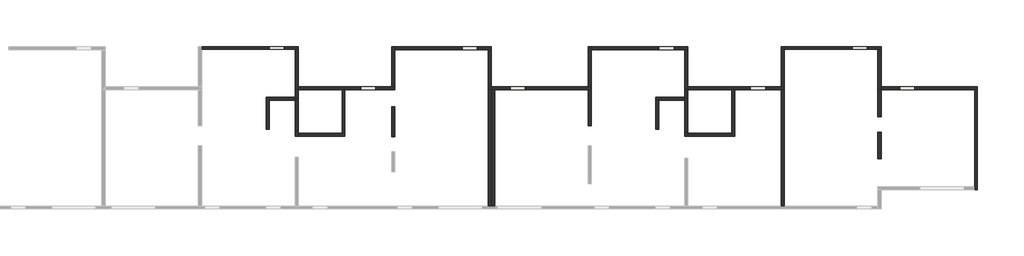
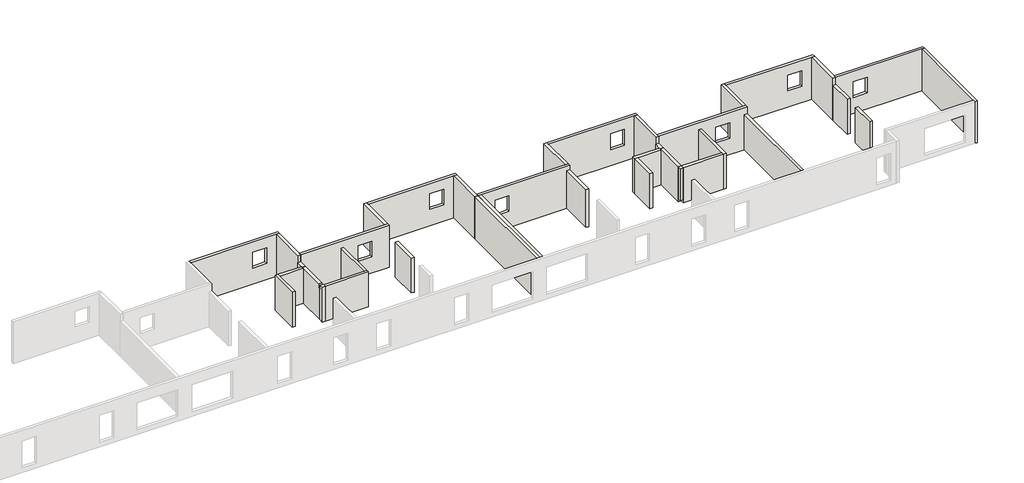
# One storey, part 2 of 2: 37 walls.
"""IFC4 building model written with IfcOpenShell, lengths in millimetres."""

from ifc_helpers import new_model, si_unit, frame, origin, place, context, project, spatial, polyline, outline, extrude, faceted_brep, element, save

model = new_model("IFC4")

# Units and contexts
model_context = context("Model", 3, world=origin())
ifc_project = project(units=[si_unit("LENGTHUNIT", "METRE", prefix="MILLI")], contexts=[model_context])

# Site, building, storey
site = spatial("IfcSite", under=ifc_project)
building = spatial("IfcBuilding", under=site)
storey = spatial("IfcBuildingStorey", under=building, Name="Niv +3", Elevation=8100.0)

# Walls
placement = place(None, origin())
element("IfcWall", 1, ObjectType="FREYS voile BA C25/30 ep=18 EXT", at=placement, inside=storey, context=model_context, shape_type="Brep", body=[
    faceted_brep([(-435.4433224, 6256.3825539, 8100.0), (5364.5566776, 6256.3825539, 8100.0), (5564.5566776, 6256.3825539, 8100.0), (5564.5566776, 6256.3825539, 11100.0), (5364.5566776, 6256.3825539, 11100.0), (-435.4433224, 6256.3825539, 11100.0), (3764.5566776, 6256.3825539, 10370.0), (4704.5566776, 6256.3825539, 10370.0), (4704.5566776, 6256.3825539, 9250.0), (3764.5566776, 6256.3825539, 9250.0), (-435.4433224, 6436.3825539, 8100.0), (-435.4433224, 6436.3825539, 11100.0), (5564.5566776, 6436.3825539, 11100.0), (5564.5566776, 6436.3825539, 8100.0), (3764.5566776, 6436.3825539, 10370.0), (3764.5566776, 6436.3825539, 9250.0), (4704.5566776, 6436.3825539, 9250.0), (4704.5566776, 6436.3825539, 10370.0)], [[[0, 1, 2, 3, 4, 5], [6, 7, 8, 9]], [[10, 11, 12, 13], [14, 15, 16, 17]], [[2, 1, 0, 10, 13]], [[5, 4, 3, 12, 11]], [[0, 5, 11, 10]], [[3, 2, 13, 12]], [[15, 14, 6, 9]], [[16, 15, 9, 8]], [[17, 16, 8, 7]], [[14, 17, 7, 6]]]),
])
element("IfcWall", 2, ObjectType="FREYS voile BA C25/30 ep=20 EXT", at=placement, inside=storey, context=model_context, shape_type="Brep", body=[
    faceted_brep([(5364.5566776, 6256.3825539, 8100.0), (5364.5566776, 3756.3855373, 8100.0), (5364.5566776, 3756.3855373, 10600.0), (5364.5566776, 3756.3855373, 11100.0), (5364.5566776, 6256.3825539, 11100.0), (5564.5566776, 6256.3825539, 8100.0), (5564.5566776, 6256.3825539, 11100.0), (5564.5566776, 3936.3855373, 11100.0), (5564.5566776, 3756.3855373, 11100.0), (5564.5566776, 3756.3855373, 10600.0), (5564.5566776, 3756.3855373, 8100.0), (5564.5566776, 3936.3855373, 8100.0)], [[[0, 1, 2, 3, 4]], [[5, 6, 7, 8, 9, 10, 11]], [[1, 0, 5, 11, 10]], [[4, 3, 8, 7, 6]], [[0, 4, 6, 5]], [[1, 10, 9, 8, 3, 2]]]),
])
element("IfcWall", 3, ObjectType="FREYS voile BA C25/30 ep=18 EXT", at=placement, inside=storey, context=model_context, shape_type="Brep", body=[
    faceted_brep([(5564.5566776, 3756.3855373, 11100.0), (5564.5566776, 3756.3855373, 8100.0), (8284.5566776, 3756.3855373, 8100.0), (8464.5566776, 3756.3855373, 8100.0), (11564.5566776, 3756.3855373, 8100.0), (11564.5566776, 3756.3855373, 11100.0), (9449.5566776, 3756.3855373, 10370.0), (10389.5566776, 3756.3855373, 10370.0), (10389.5566776, 3756.3855373, 9250.0), (9449.5566776, 3756.3855373, 9250.0), (5564.5566776, 3936.3855373, 8100.0), (5564.5566776, 3936.3855373, 11100.0), (11364.5566776, 3936.3855373, 11100.0), (11564.5566776, 3936.3855373, 11100.0), (11564.5566776, 3936.3855373, 8100.0), (11364.5566776, 3936.3855373, 8100.0), (9449.5566776, 3936.3855373, 10370.0), (9449.5566776, 3936.3855373, 9250.0), (10389.5566776, 3936.3855373, 9250.0), (10389.5566776, 3936.3855373, 10370.0)], [[[0, 1, 2, 3, 4, 5], [6, 7, 8, 9]], [[10, 11, 12, 13, 14, 15], [16, 17, 18, 19]], [[4, 3, 2, 1, 10, 15, 14]], [[0, 5, 13, 12, 11]], [[5, 4, 14, 13]], [[0, 11, 10, 1]], [[17, 16, 6, 9]], [[18, 17, 9, 8]], [[19, 18, 8, 7]], [[16, 19, 7, 6]]]),
])
element("IfcWall", 4, ObjectType="FREYS voile BA C25/30 ep=20 EXT", at=placement, inside=storey, context=model_context, shape_type="Brep", body=[
    faceted_brep([(11564.5566776, 3936.3855373, 8100.0), (11564.5566776, 6246.3439203, 8100.0), (11564.5566776, 6426.3439203, 8100.0), (11564.5566776, 6426.3439203, 11100.0), (11564.5566776, 6246.3439203, 11100.0), (11564.5566776, 3936.3855373, 11100.0), (11364.5566776, 3936.3855373, 8100.0), (11364.5566776, 3936.3855373, 11100.0), (11364.5566776, 6426.3439203, 11100.0), (11364.5566776, 6426.3439203, 8100.0)], [[[0, 1, 2, 3, 4, 5]], [[6, 7, 8, 9]], [[2, 1, 0, 6, 9]], [[5, 4, 3, 8, 7]], [[0, 5, 7, 6]], [[3, 2, 9, 8]]]),
])
element("IfcWall", 5, ObjectType="FREYS voile BA C25/30 ep=18 EXT", at=placement, inside=storey, context=model_context, shape_type="Brep", body=[
    faceted_brep([(11564.5566776, 6246.3439203, 8100.0), (17354.5566776, 6246.3439203, 8100.0), (17554.5566776, 6246.3439203, 8100.0), (17554.5566776, 6246.3439203, 11100.0), (17354.5566776, 6246.3439203, 11100.0), (11564.5566776, 6246.3439203, 11100.0), (15754.5566776, 6246.3439203, 10370.0), (16694.5566776, 6246.3439203, 10370.0), (16694.5566776, 6246.3439203, 9250.0), (15754.5566776, 6246.3439203, 9250.0), (11564.5566776, 6426.3439203, 8100.0), (11564.5566776, 6426.3439203, 11100.0), (17554.5566776, 6426.3439203, 11100.0), (17554.5566776, 6426.3439203, 8100.0), (15754.5566776, 6426.3439203, 10370.0), (15754.5566776, 6426.3439203, 9250.0), (16694.5566776, 6426.3439203, 9250.0), (16694.5566776, 6426.3439203, 10370.0)], [[[0, 1, 2, 3, 4, 5], [6, 7, 8, 9]], [[10, 11, 12, 13], [14, 15, 16, 17]], [[2, 1, 0, 10, 13]], [[5, 4, 3, 12, 11]], [[0, 5, 11, 10]], [[3, 2, 13, 12]], [[15, 14, 6, 9]], [[16, 15, 9, 8]], [[17, 16, 8, 7]], [[14, 17, 7, 6]]]),
])
element("IfcWall", 6, ObjectType="FREYS voile BA C25/30 ep=20 EXT", at=placement, inside=storey, context=model_context, shape_type="SweptSolid", body=[
    extrude(outline(polyline([(17354.5566776, 3766.3439203), (17354.5566776, 6246.3439203), (17554.5566776, 6246.3439203), (17554.5566776, 3766.3439203), (17354.5566776, 3766.3439203)])), frame((0.0, 0.0, 8100.0), z_axis=(0.0, 0.0, 1.0), x_axis=(1.0, 0.0, 0.0)), (0.0, 0.0, 1.0), 3000.0),
])
element("IfcWall", 7, ObjectType="FREYS voile BA C25/30 ep=18 EXT", at=placement, inside=storey, context=model_context, shape_type="Brep", body=[
    faceted_brep([(17574.5566776, 3756.3825734, 8100.0), (17578.5913396, 3756.3825734, 8100.0), (17778.5913396, 3756.3825734, 8100.0), (23564.5566776, 3756.3825734, 8100.0), (23764.5566776, 3756.3825734, 8100.0), (23764.5566776, 3756.3825734, 10800.0), (23764.5566776, 3756.3825734, 11100.0), (17778.5913396, 3756.3825734, 11100.0), (17578.5913396, 3756.3825734, 11100.0), (17574.5566776, 3756.3825734, 11100.0), (18718.5913396, 3756.3825734, 10370.0), (19658.5913396, 3756.3825734, 10370.0), (19658.5913396, 3756.3825734, 9250.0), (18718.5913396, 3756.3825734, 9250.0), (17574.5566776, 3936.3825734, 8100.0), (17574.5566776, 3936.3825734, 11100.0), (23564.5566776, 3936.3825734, 11100.0), (23764.5566776, 3936.3825734, 11100.0), (23764.5566776, 3936.3825734, 8100.0), (23564.5566776, 3936.3825734, 8100.0), (18718.5913396, 3936.3825734, 10370.0), (18718.5913396, 3936.3825734, 9250.0), (19658.5913396, 3936.3825734, 9250.0), (19658.5913396, 3936.3825734, 10370.0)], [[[0, 1, 2, 3, 4, 5, 6, 7, 8, 9], [10, 11, 12, 13]], [[14, 15, 16, 17, 18, 19], [20, 21, 22, 23]], [[4, 3, 2, 1, 0, 14, 19, 18]], [[9, 8, 7, 6, 17, 16, 15]], [[0, 9, 15, 14]], [[4, 18, 17, 6, 5]], [[21, 20, 10, 13]], [[22, 21, 13, 12]], [[23, 22, 12, 11]], [[20, 23, 11, 10]]]),
])
element("IfcWall", 8, ObjectType="FREYS voile BA C25/30 ep=20 EXT", at=placement, inside=storey, context=model_context, shape_type="Brep", body=[
    faceted_brep([(23764.5566776, 3936.3825734, 11100.0), (23764.5566776, 3936.3825734, 8100.0), (23764.5566776, 6246.3439203, 8100.0), (23764.5566776, 6426.3439203, 8100.0), (23764.5566776, 6426.3439203, 11100.0), (23764.5566776, 6246.3439203, 11100.0), (23564.5566776, 3936.3825734, 8100.0), (23564.5566776, 3936.3825734, 11100.0), (23564.5566776, 6426.3439203, 11100.0), (23564.5566776, 6426.3439203, 8100.0)], [[[0, 1, 2, 3, 4, 5]], [[6, 7, 8, 9]], [[3, 2, 1, 6, 9]], [[0, 5, 4, 8, 7]], [[4, 3, 9, 8]], [[0, 7, 6, 1]]]),
])
element("IfcWall", 9, ObjectType="FREYS voile BA C25/30 ep=18 EXT", at=placement, inside=storey, context=model_context, shape_type="Brep", body=[
    faceted_brep([(23764.5566776, 6246.3439203, 8100.0), (29564.5566776, 6246.3439203, 8100.0), (29764.5566776, 6246.3439203, 8100.0), (29764.5566776, 6246.3439203, 11100.0), (29564.5566776, 6246.3439203, 11100.0), (23764.5566776, 6246.3439203, 11100.0), (27964.5566776, 6246.3439203, 10370.0), (28904.5566776, 6246.3439203, 10370.0), (28904.5566776, 6246.3439203, 9250.0), (27964.5566776, 6246.3439203, 9250.0), (23764.5566776, 6426.3439203, 8100.0), (23764.5566776, 6426.3439203, 11100.0), (29764.5566776, 6426.3439203, 11100.0), (29764.5566776, 6426.3439203, 8100.0), (27964.5566776, 6426.3439203, 10370.0), (27964.5566776, 6426.3439203, 9250.0), (28904.5566776, 6426.3439203, 9250.0), (28904.5566776, 6426.3439203, 10370.0)], [[[0, 1, 2, 3, 4, 5], [6, 7, 8, 9]], [[10, 11, 12, 13], [14, 15, 16, 17]], [[2, 1, 0, 10, 13]], [[5, 4, 3, 12, 11]], [[0, 5, 11, 10]], [[3, 2, 13, 12]], [[15, 14, 6, 9]], [[16, 15, 9, 8]], [[17, 16, 8, 7]], [[14, 17, 7, 6]]]),
])
element("IfcWall", 10, ObjectType="FREYS voile BA C25/30 ep=20 EXT", at=placement, inside=storey, context=model_context, shape_type="Brep", body=[
    faceted_brep([(29564.5566776, 6246.3439203, 8100.0), (29564.5566776, 3746.3439203, 8100.0), (29564.5566776, 3746.3439203, 10600.0), (29564.5566776, 3746.3439203, 11100.0), (29564.5566776, 6246.3439203, 11100.0), (29764.5566776, 6246.3439203, 8100.0), (29764.5566776, 6246.3439203, 11100.0), (29764.5566776, 3936.3228263, 11100.0), (29764.5566776, 3756.3228263, 11100.0), (29764.5566776, 3746.3439203, 11100.0), (29764.5566776, 3746.3439203, 10600.0), (29764.5566776, 3746.3439203, 8100.0), (29764.5566776, 3756.3228263, 8100.0), (29764.5566776, 3936.3228263, 8100.0)], [[[0, 1, 2, 3, 4]], [[5, 6, 7, 8, 9, 10, 11, 12, 13]], [[1, 0, 5, 13, 12, 11]], [[3, 2, 1, 11, 10, 9]], [[4, 3, 9, 8, 7, 6]], [[0, 4, 6, 5]]]),
])
element("IfcWall", 11, ObjectType="FREYS voile BA C25/30 ep=18 EXT", at=placement, inside=storey, context=model_context, shape_type="Brep", body=[
    faceted_brep([(29764.5566776, 3756.3228263, 8100.0), (32484.5576436, 3756.3228263, 8100.0), (32664.5576436, 3756.3228263, 8100.0), (35564.5566776, 3756.3228263, 8100.0), (35764.5566776, 3756.3228263, 8100.0), (35764.5566776, 3756.3228263, 10600.0), (35764.5566776, 3756.3228263, 11100.0), (29764.5566776, 3756.3228263, 11100.0), (33649.5571606, 3756.3228263, 10370.0), (34589.5571606, 3756.3228263, 10370.0), (34589.5571606, 3756.3228263, 9250.0), (33649.5571606, 3756.3228263, 9250.0), (29764.5566776, 3936.3228263, 8100.0), (29764.5566776, 3936.3228263, 11100.0), (35564.5566776, 3936.3228263, 11100.0), (35764.5566776, 3936.3228263, 11100.0), (35764.5566776, 3936.3228263, 8100.0), (35564.5566776, 3936.3228263, 8100.0), (33649.5571606, 3936.3228263, 10370.0), (33649.5571606, 3936.3228263, 9250.0), (34589.5571606, 3936.3228263, 9250.0), (34589.5571606, 3936.3228263, 10370.0)], [[[0, 1, 2, 3, 4, 5, 6, 7], [8, 9, 10, 11]], [[12, 13, 14, 15, 16, 17], [18, 19, 20, 21]], [[4, 3, 2, 1, 0, 12, 17, 16]], [[7, 6, 15, 14, 13]], [[0, 7, 13, 12]], [[4, 16, 15, 6, 5]], [[19, 18, 8, 11]], [[20, 19, 11, 10]], [[21, 20, 10, 9]], [[18, 21, 9, 8]]]),
])
element("IfcWall", 12, ObjectType="FREYS voile BA C25/30 ep=20 EXT", at=placement, inside=storey, context=model_context, shape_type="Brep", body=[
    faceted_brep([(35764.5566776, 3936.3228263, 11100.0), (35764.5566776, 3936.3228263, 8100.0), (35764.5566776, 6256.3228263, 8100.0), (35764.5566776, 6436.3228263, 8100.0), (35764.5566776, 6436.3228263, 11100.0), (35764.5566776, 6256.3228263, 11100.0), (35564.5566776, 3936.3228263, 8100.0), (35564.5566776, 3936.3228263, 11100.0), (35564.5566776, 6436.3228263, 11100.0), (35564.5566776, 6436.3228263, 8100.0)], [[[0, 1, 2, 3, 4, 5]], [[6, 7, 8, 9]], [[3, 2, 1, 6, 9]], [[0, 5, 4, 8, 7]], [[4, 3, 9, 8]], [[0, 7, 6, 1]]]),
])
element("IfcWall", 13, ObjectType="FREYS voile BA C25/30 ep=18 EXT", at=placement, inside=storey, context=model_context, shape_type="Brep", body=[
    faceted_brep([(35764.5566776, 6256.3228263, 8100.0), (41564.5566776, 6256.3228263, 8100.0), (41764.5566776, 6256.3228263, 8100.0), (41764.5566776, 6256.3228263, 11100.0), (41564.5566776, 6256.3228263, 11100.0), (35764.5566776, 6256.3228263, 11100.0), (40904.5566776, 6256.3228263, 10370.0), (40904.5566776, 6256.3228263, 9250.0), (39964.5566776, 6256.3228263, 9250.0), (39964.5566776, 6256.3228263, 10370.0), (35764.5566776, 6436.3228263, 8100.0), (35764.5566776, 6436.3228263, 11100.0), (41764.5566776, 6436.3228263, 11100.0), (41764.5566776, 6436.3228263, 8100.0), (40904.5566776, 6436.3228263, 10370.0), (39964.5566776, 6436.3228263, 10370.0), (39964.5566776, 6436.3228263, 9250.0), (40904.5566776, 6436.3228263, 9250.0)], [[[0, 1, 2, 3, 4, 5], [6, 7, 8, 9]], [[10, 11, 12, 13], [14, 15, 16, 17]], [[2, 1, 0, 10, 13]], [[5, 4, 3, 12, 11]], [[0, 5, 11, 10]], [[3, 2, 13, 12]], [[7, 6, 14, 17]], [[8, 7, 17, 16]], [[9, 8, 16, 15]], [[6, 9, 15, 14]]]),
])
element("IfcWall", 14, ObjectType="FREYS voile BA C25/30 ep=20 EXT", at=placement, inside=storey, context=model_context, shape_type="Brep", body=[
    faceted_brep([(41564.5566776, 6256.3228263, 8100.0), (41564.5566776, 3746.3802819, 8100.0), (41564.5566776, 3746.3802819, 10600.0), (41564.5566776, 3746.3802819, 11100.0), (41564.5566776, 6256.3228263, 11100.0), (41764.5566776, 6256.3228263, 8100.0), (41764.5566776, 6256.3228263, 11100.0), (41764.5566776, 3926.3802819, 11100.0), (41764.5566776, 3746.3802819, 11100.0), (41764.5566776, 3746.3802819, 10600.0), (41764.5566776, 3746.3802819, 8100.0), (41764.5566776, 3926.3802819, 8100.0)], [[[0, 1, 2, 3, 4]], [[5, 6, 7, 8, 9, 10, 11]], [[1, 0, 5, 11, 10]], [[4, 3, 8, 7, 6]], [[0, 4, 6, 5]], [[1, 10, 9, 8, 3, 2]]]),
])
element("IfcWall", 15, ObjectType="FREYS voile BA C25/30 ep=18 EXT", at=placement, inside=storey, context=model_context, shape_type="Brep", body=[
    faceted_brep([(41764.5566776, 3746.3802819, 11100.0), (41764.5566776, 3746.3802819, 8100.0), (47574.5566776, 3746.3802819, 8100.0), (47754.5566776, 3746.3802819, 8100.0), (47754.5566776, 3746.3802819, 11100.0), (47574.5566776, 3746.3802819, 11100.0), (43864.5566776, 3746.3802819, 10370.0), (43864.5566776, 3746.3802819, 9250.0), (42924.5566776, 3746.3802819, 9250.0), (42924.5566776, 3746.3802819, 10370.0), (41764.5566776, 3926.3802819, 8100.0), (41764.5566776, 3926.3802819, 11100.0), (47754.5566776, 3926.3802819, 11100.0), (47754.5566776, 3926.3802819, 8100.0), (43864.5566776, 3926.3802819, 10370.0), (42924.5566776, 3926.3802819, 10370.0), (42924.5566776, 3926.3802819, 9250.0), (43864.5566776, 3926.3802819, 9250.0)], [[[0, 1, 2, 3, 4, 5], [6, 7, 8, 9]], [[10, 11, 12, 13], [14, 15, 16, 17]], [[3, 2, 1, 10, 13]], [[0, 5, 4, 12, 11]], [[4, 3, 13, 12]], [[0, 11, 10, 1]], [[7, 6, 14, 17]], [[8, 7, 17, 16]], [[9, 8, 16, 15]], [[6, 9, 15, 14]]]),
])
element("IfcWall", 16, ObjectType="FREYS voile BA C25/30 ep=18 EXT", at=placement, inside=storey, context=model_context, shape_type="Brep", body=[
    faceted_brep([(47574.5566776, 3746.3802819, 8100.0), (47574.5566776, -2273.6560797, 8100.0), (47574.5566776, -2453.6560797, 8100.0), (47574.5566776, -2453.6560797, 11100.0), (47574.5566776, -2273.6560797, 11100.0), (47574.5566776, 3746.3802819, 11100.0), (47754.5566776, 3746.3802819, 8100.0), (47754.5566776, 3746.3802819, 11100.0), (47754.5566776, -2453.6560797, 11100.0), (47754.5566776, -2453.6560797, 8100.0)], [[[0, 1, 2, 3, 4, 5]], [[6, 7, 8, 9]], [[2, 1, 0, 6, 9]], [[5, 4, 3, 8, 7]], [[0, 5, 7, 6]], [[3, 2, 9, 8]]]),
])
element("IfcWall", 17, ObjectType="FREYS voile BA C25/30 ep=20 INT", at=placement, inside=storey, context=model_context, shape_type="Brep", body=[
    faceted_brep([(5364.5566776, 3756.3855373, 8100.0), (5364.5566776, 3286.3439054, 8100.0), (5364.5566776, 3186.3439054, 8100.0), (5364.5566776, 3186.3439054, 10600.0), (5364.5566776, 3286.3439054, 10600.0), (5364.5566776, 3756.3855373, 10600.0), (5564.5566776, 3756.3855373, 8100.0), (5564.5566776, 3756.3855373, 10600.0), (5564.5566776, 3186.3439054, 10600.0), (5564.5566776, 3186.3439054, 8100.0)], [[[0, 1, 2, 3, 4, 5]], [[6, 7, 8, 9]], [[2, 1, 0, 6, 9]], [[3, 2, 9, 8]], [[5, 4, 3, 8, 7]], [[0, 5, 7, 6]]]),
])
element("IfcWall", 18, ObjectType="FREYS voile BA C25/30 ep=20 INT", at=placement, inside=storey, context=model_context, shape_type="Brep", body=[
    faceted_brep([(3764.5312758, 1286.3439054, 8100.0), (3764.5312758, 3086.3439054, 8100.0), (3764.5312758, 3286.3439054, 8100.0), (3764.5312758, 3286.3439054, 10600.0), (3764.5312758, 3086.3439054, 10600.0), (3764.5312758, 1286.3439054, 10600.0), (3564.5312758, 1286.3439054, 8100.0), (3564.5312758, 1286.3439054, 10350.0), (3564.5312758, 1286.3439054, 10600.0), (3564.5312758, 3286.3439054, 10600.0), (3564.5312758, 3286.3439054, 8100.0)], [[[0, 1, 2, 3, 4, 5]], [[6, 7, 8, 9, 10]], [[2, 1, 0, 6, 10]], [[5, 4, 3, 9, 8]], [[3, 2, 10, 9]], [[0, 5, 8, 7, 6]]]),
])
element("IfcWall", 19, ObjectType="FREYS voile BA C25/30 ep=20 INT", at=placement, inside=storey, context=model_context, shape_type="Brep", body=[
    faceted_brep([(3764.5312758, 3086.3439054, 8100.0), (5364.5566776, 3086.3439054, 8100.0), (5364.5566776, 3086.3439054, 10600.0), (3764.5312758, 3086.3439054, 10600.0), (3764.5312758, 3286.3439054, 8100.0), (3764.5312758, 3286.3439054, 10600.0), (5364.5566776, 3286.3439054, 10600.0), (5364.5566776, 3286.3439054, 8100.0), (5364.5566776, 3186.3439054, 8100.0), (5364.5566776, 3186.3439054, 10600.0)], [[[0, 1, 2, 3]], [[4, 5, 6, 7]], [[1, 0, 4, 7, 8]], [[3, 2, 9, 6, 5]], [[0, 3, 5, 4]], [[2, 1, 8, 7, 6, 9]]]),
])
element("IfcWall", 20, ObjectType="FREYS voile BA C25/30 ep=18 INT", at=placement, inside=storey, context=model_context, shape_type="Brep", body=[
    faceted_brep([(5564.5566776, 856.3185029, 8100.0), (8464.5566776, 856.3185029, 8100.0), (8464.5566776, 856.3185029, 10600.0), (5564.5566776, 856.3185029, 10600.0), (5564.5566776, 1036.3185029, 8100.0), (5564.5566776, 1036.3185029, 10600.0), (8284.5566776, 1036.3185029, 10600.0), (8464.5566776, 1036.3185029, 10600.0), (8464.5566776, 1036.3185029, 8100.0), (8284.5566776, 1036.3185029, 8100.0)], [[[0, 1, 2, 3]], [[4, 5, 6, 7, 8, 9]], [[1, 0, 4, 9, 8]], [[3, 2, 7, 6, 5]], [[0, 3, 5, 4]], [[2, 1, 8, 7]]]),
])
element("IfcWall", 21, ObjectType="FREYS voile BA C25/30 ep=18 INT", at=placement, inside=storey, context=model_context, shape_type="SweptSolid", body=[
    extrude(outline(polyline([(8464.5566776, 3756.3855373), (8464.5566776, 1036.3185029), (8284.5566776, 1036.3185029), (8284.5566776, 3756.3855373), (8464.5566776, 3756.3855373)])), frame((0.0, 0.0, 8100.0), z_axis=(0.0, 0.0, 1.0), x_axis=(1.0, 0.0, 0.0)), (0.0, 0.0, 1.0), 2500.0),
])
element("IfcWall", 22, ObjectType="FREYS voile BA C25/30 ep=20 INT", at=placement, inside=storey, context=model_context, shape_type="SweptSolid", body=[
    extrude(outline(polyline([(11364.5566776, 826.3802819), (11364.5566776, 2686.3802819), (11564.5566776, 2686.3802819), (11564.5566776, 826.3802819), (11364.5566776, 826.3802819)])), frame((0.0, 0.0, 8100.0), z_axis=(0.0, 0.0, 1.0), x_axis=(1.0, 0.0, 0.0)), (0.0, 0.0, 1.0), 2500.0),
])
element("IfcWall", 23, ObjectType="FREYS voile BA C25/30 ep=20 EXT", at=placement, inside=storey, context=model_context, shape_type="SweptSolid", body=[
    extrude(outline(polyline([(17354.5566776, -3473.6560797), (17354.5566776, 3766.3439203), (17554.5566776, 3766.3439203), (17554.5566776, -3473.6560797), (17354.5566776, -3473.6560797)])), frame((0.0, 0.0, 8100.0), z_axis=(0.0, 0.0, 1.0), x_axis=(1.0, 0.0, 0.0)), (0.0, 0.0, 1.0), 3000.0),
])
element("IfcWall", 24, ObjectType="FREYS voile BA C25/30 ep=20 EXT", at=placement, inside=storey, context=model_context, shape_type="SweptSolid", body=[
    extrude(outline(polyline([(17578.5913396, -3473.6560797), (17578.5913396, 3756.3825734), (17778.5913396, 3756.3825734), (17778.5913396, -3473.6560797), (17578.5913396, -3473.6560797)])), frame((0.0, 0.0, 8100.0), z_axis=(0.0, 0.0, 1.0), x_axis=(1.0, 0.0, 0.0)), (0.0, 0.0, 1.0), 3000.0),
])
element("IfcWall", 25, ObjectType="FREYS voile BA C25/30 ep=20 EXT", at=placement, inside=storey, context=model_context, shape_type="SweptSolid", body=[
    extrude(outline(polyline([(23564.5566776, 1506.3865795), (23564.5566776, 3756.3825734), (23764.5566776, 3756.3825734), (23764.5566776, 1506.3865795), (23564.5566776, 1506.3865795)])), frame((0.0, 0.0, 8100.0), z_axis=(0.0, 0.0, 1.0), x_axis=(1.0, 0.0, 0.0)), (0.0, 0.0, 1.0), 2700.0),
])
element("IfcWall", 26, ObjectType="FREYS voile BA C25/30 ep=20 INT", at=placement, inside=storey, context=model_context, shape_type="Brep", body=[
    faceted_brep([(29564.5566776, 3746.3439203, 8100.0), (29564.5566776, 3286.3442869, 8100.0), (29564.5566776, 3186.3442869, 8100.0), (29564.5566776, 3186.3442869, 10600.0), (29564.5566776, 3286.3442869, 10600.0), (29564.5566776, 3746.3439203, 10600.0), (29764.5566776, 3746.3439203, 8100.0), (29764.5566776, 3746.3439203, 10600.0), (29764.5566776, 3186.3442869, 10600.0), (29764.5566776, 3186.3442869, 8100.0)], [[[0, 1, 2, 3, 4, 5]], [[6, 7, 8, 9]], [[2, 1, 0, 6, 9]], [[3, 2, 9, 8]], [[5, 4, 3, 8, 7]], [[0, 5, 7, 6]]]),
])
element("IfcWall", 27, ObjectType="FREYS voile BA C25/30 ep=20 INT", at=placement, inside=storey, context=model_context, shape_type="Brep", body=[
    faceted_brep([(29564.5566776, 3286.3442869, 8100.0), (27764.5566776, 3286.3442869, 8100.0), (27764.5566776, 3286.3442869, 10600.0), (29564.5566776, 3286.3442869, 10600.0), (29564.5566776, 3086.3442869, 8100.0), (29564.5566776, 3086.3442869, 10600.0), (27964.5566776, 3086.3442869, 10600.0), (27764.5566776, 3086.3442869, 10600.0), (27764.5566776, 3086.3442869, 8100.0), (27964.5566776, 3086.3442869, 8100.0), (29564.5566776, 3186.3442869, 8100.0), (29564.5566776, 3186.3442869, 10600.0)], [[[0, 1, 2, 3]], [[4, 5, 6, 7, 8, 9]], [[1, 0, 10, 4, 9, 8]], [[3, 2, 7, 6, 5, 11]], [[2, 1, 8, 7]], [[0, 3, 11, 5, 4, 10]]]),
])
element("IfcWall", 28, ObjectType="FREYS voile BA C25/30 ep=20 INT", at=placement, inside=storey, context=model_context, shape_type="Brep", body=[
    faceted_brep([(27764.5566776, 3086.3442869, 8100.0), (27764.5566776, 1286.3442869, 8100.0), (27764.5566776, 1286.3442869, 10350.0), (27764.5566776, 1286.3442869, 10600.0), (27764.5566776, 3086.3442869, 10600.0), (27964.5566776, 3086.3442869, 8100.0), (27964.5566776, 3086.3442869, 10600.0), (27964.5566776, 1286.3442869, 10600.0), (27964.5566776, 1286.3442869, 8100.0)], [[[0, 1, 2, 3, 4]], [[5, 6, 7, 8]], [[1, 0, 5, 8]], [[4, 3, 7, 6]], [[0, 4, 6, 5]], [[3, 2, 1, 8, 7]]]),
])
element("IfcWall", 29, ObjectType="FREYS voile BA C25/30 ep=18 INT", at=placement, inside=storey, context=model_context, shape_type="Brep", body=[
    faceted_brep([(32484.5576436, 3756.3228263, 8100.0), (32484.5576436, 1056.3184865, 8100.0), (32484.5576436, 856.3184865, 8100.0), (32484.5576436, 856.3184865, 10600.0), (32484.5576436, 1056.3184865, 10600.0), (32484.5576436, 3756.3228263, 10600.0), (32664.5576436, 3756.3228263, 8100.0), (32664.5576436, 3756.3228263, 10600.0), (32664.5576436, 856.3184865, 10600.0), (32664.5576436, 856.3184865, 8100.0)], [[[0, 1, 2, 3, 4, 5]], [[6, 7, 8, 9]], [[2, 1, 0, 6, 9]], [[5, 4, 3, 8, 7]], [[0, 5, 7, 6]], [[3, 2, 9, 8]]]),
])
element("IfcWall", 30, ObjectType="FREYS voile BA C25/30 ep=20 INT", at=placement, inside=storey, context=model_context, shape_type="Brep", body=[
    faceted_brep([(32484.5576436, 1056.3184865, 8100.0), (29764.5566776, 1056.3184865, 8100.0), (29764.5566776, 1056.3184865, 10600.0), (32484.5576436, 1056.3184865, 10600.0), (32484.5576436, 856.3184865, 8100.0), (32484.5576436, 856.3184865, 10600.0), (29764.5566776, 856.3184865, 10600.0), (29764.5566776, 856.3184865, 8300.0), (29764.5566776, 856.3184865, 8100.0)], [[[0, 1, 2, 3]], [[4, 5, 6, 7, 8]], [[1, 0, 4, 8]], [[3, 2, 6, 5]], [[0, 3, 5, 4]], [[2, 1, 8, 7, 6]]]),
])
element("IfcWall", 31, ObjectType="FREYS voile BA C25/30 ep=20 INT", at=placement, inside=storey, context=model_context, shape_type="SweptSolid", body=[
    extrude(outline(polyline([(35564.5566776, -3473.6560797), (35564.5566776, 3756.3228263), (35764.5566776, 3756.3228263), (35764.5566776, -3473.6560797), (35564.5566776, -3473.6560797)])), frame((0.0, 0.0, 8100.0), z_axis=(0.0, 0.0, 1.0), x_axis=(1.0, 0.0, 0.0)), (0.0, 0.0, 1.0), 2500.0),
])
element("IfcWall", 32, ObjectType="FREYS voile BA C25/30 ep=20 INT", at=placement, inside=storey, context=model_context, shape_type="SweptSolid", body=[
    extrude(outline(polyline([(41564.5566776, 2086.3802819), (41564.5566776, 3746.3802819), (41764.5566776, 3746.3802819), (41764.5566776, 2086.3802819), (41564.5566776, 2086.3802819)])), frame((0.0, 0.0, 8100.0), z_axis=(0.0, 0.0, 1.0), x_axis=(1.0, 0.0, 0.0)), (0.0, 0.0, 1.0), 2500.0),
])
element("IfcWall", 33, ObjectType="FREYS voile BA C25/30 ep=20 INT", at=placement, inside=storey, context=model_context, shape_type="SweptSolid", body=[
    extrude(outline(polyline([(41564.5566776, -533.6560797), (41564.5566776, 1126.3439189), (41764.5566776, 1126.3439189), (41764.5566776, -533.6560797), (41564.5566776, -533.6560797)])), frame((0.0, 0.0, 8100.0), z_axis=(0.0, 0.0, 1.0), x_axis=(1.0, 0.0, 0.0)), (0.0, 0.0, 1.0), 2500.0),
])
element("IfcWall", 34, ObjectType="FREYS voile BA C25/30 ep=20 INT", at=placement, inside=storey, context=model_context, shape_type="Brep", body=[
    faceted_brep([(5364.5566776, 3186.3439054, 8100.0), (5364.5566776, 3086.3439054, 8100.0), (5364.5566776, 1186.3439054, 8100.0), (5364.5566776, 1186.3439054, 10350.0), (5364.5566776, 1286.3439054, 10350.0), (5364.5566776, 1286.3439054, 10600.0), (5364.5566776, 3086.3439054, 10600.0), (5364.5566776, 3186.3439054, 10600.0), (5564.5566776, 3186.3439054, 8100.0), (5564.5566776, 3186.3439054, 10600.0), (5564.5566776, 1286.3439054, 10600.0), (5564.5566776, 1286.3439054, 10350.0), (5564.5566776, 1186.3439054, 10350.0), (5564.5566776, 1186.3439054, 8100.0)], [[[0, 1, 2, 3, 4, 5, 6, 7]], [[8, 9, 10, 11, 12, 13]], [[2, 1, 0, 8, 13]], [[7, 6, 5, 10, 9]], [[0, 7, 9, 8]], [[3, 2, 13, 12]], [[11, 4, 3, 12]], [[5, 4, 11, 10]]]),
])
element("IfcWall", 35, ObjectType="FREYS voile BA C25/30 ep=20 INT", at=placement, inside=storey, context=model_context, shape_type="Brep", body=[
    faceted_brep([(5364.5566776, 1186.3439054, 8100.0), (5364.5566776, 856.3185029, 8100.0), (5364.5566776, 856.3185029, 10600.0), (5364.5566776, 1086.3439054, 10600.0), (5364.5566776, 1086.3439054, 10350.0), (5364.5566776, 1186.3439054, 10350.0), (5564.5566776, 1186.3439054, 8100.0), (5564.5566776, 1186.3439054, 10350.0), (5564.5566776, 1086.3439054, 10350.0), (5564.5566776, 1086.3439054, 10600.0), (5564.5566776, 1036.3185029, 10600.0), (5564.5566776, 856.3185029, 10600.0), (5564.5566776, 856.3185029, 8100.0), (5564.5566776, 1036.3185029, 8100.0)], [[[0, 1, 2, 3, 4, 5]], [[6, 7, 8, 9, 10, 11, 12, 13]], [[1, 0, 6, 13, 12]], [[3, 2, 11, 10, 9]], [[2, 1, 12, 11]], [[0, 5, 7, 6]], [[4, 8, 7, 5]], [[4, 3, 9, 8]]]),
])
element("IfcWall", 36, ObjectType="FREYS voile BA C25/30 ep=20 INT", at=placement, inside=storey, context=model_context, shape_type="Brep", body=[
    faceted_brep([(29564.5566776, 3186.3442869, 8100.0), (29564.5566776, 3086.3442869, 8100.0), (29564.5566776, 1076.3184865, 8100.0), (29564.5566776, 1076.3184865, 8300.0), (29564.5566776, 1076.3184865, 10600.0), (29564.5566776, 3086.3442869, 10600.0), (29564.5566776, 3186.3442869, 10600.0), (29764.5566776, 3186.3442869, 8100.0), (29764.5566776, 3186.3442869, 10600.0), (29764.5566776, 1076.3184865, 10600.0), (29764.5566776, 1076.3184865, 8300.0), (29764.5566776, 1076.3184865, 8100.0)], [[[0, 1, 2, 3, 4, 5, 6]], [[7, 8, 9, 10, 11]], [[2, 1, 0, 7, 11]], [[4, 3, 2, 11, 10, 9]], [[6, 5, 4, 9, 8]], [[0, 6, 8, 7]]]),
])
element("IfcWall", 37, ObjectType="FREYS voile BA C25/30 ep=20 INT", at=placement, inside=storey, context=model_context, shape_type="Brep", body=[
    faceted_brep([(29564.5566776, 1076.3184865, 10600.0), (29564.5566776, 1076.3184865, 8300.0), (29564.5566776, 856.3184865, 8300.0), (29564.5566776, 856.3184865, 10600.0), (29764.5566776, 1076.3184865, 8300.0), (29764.5566776, 1076.3184865, 10600.0), (29764.5566776, 1056.3184865, 10600.0), (29764.5566776, 856.3184865, 10600.0), (29764.5566776, 856.3184865, 8300.0)], [[[0, 1, 2, 3]], [[4, 5, 6, 7, 8]], [[2, 1, 4, 8]], [[0, 3, 7, 6, 5]], [[3, 2, 8, 7]], [[0, 5, 4, 1]]]),
])

save(model, "model.ifc")
